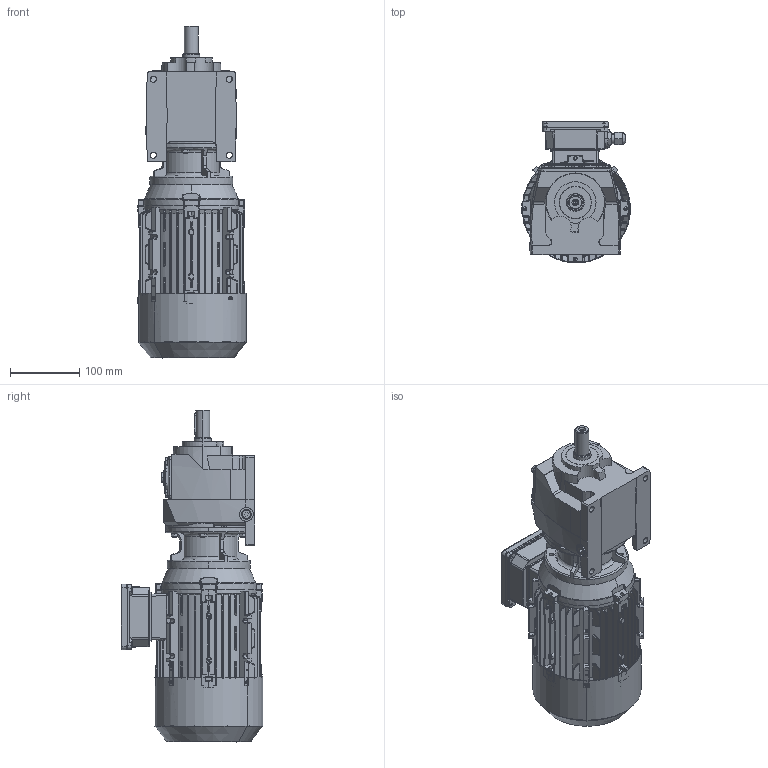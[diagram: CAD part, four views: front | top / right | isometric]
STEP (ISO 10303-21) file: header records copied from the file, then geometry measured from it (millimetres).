
FILE_DESCRIPTION (( 'STEP AP203' ), '1' );
FILE_NAME ('MV_003_0_MX-80.STEP', '2018-11-22T13:05:18', ( '' ), ( '' ), 'SwSTEP 2.0', 'SolidWorks 2012', '' );
FILE_SCHEMA (( 'CONFIG_CONTROL_DESIGN' ));
Products named in the file (15): MV_003_0_MX-80; MX3-80_B14; IE 3 80 Plug; IE3 80 Shaft; IE3 80 Cable glands; Flansch-80_IMB14; IE3 80 Fan cover; IE3 80 Gasket for T-box(base); IE3 80 Teriminal box base; IE3 80 terminal box cover; IE3 80 Casing; IE3 80 Shield; ML11A_Varsayìlan; 0380B14_Varsayìlan; M003_Varsayìlan
Assembly tree (14 placements, depth 3):
  MV_003_0_MX-80
    M003_Varsayìlan
    0380B14_Varsayìlan
    ML11A_Varsayìlan
    MX3-80_B14
      IE3 80 Casing
      IE3 80 Shield
      IE3 80 Fan cover
      IE3 80 Teriminal box base
      IE3 80 Gasket for T-box(base)
      IE3 80 terminal box cover
      IE3 80 Cable glands
      Flansch-80_IMB14
      IE 3 80 Plug
      IE3 80 Shaft
Bounding box: 156.89 x 204.59 x 480.5 mm (x, y, z)
Volume: 2688047.8 mm3; surface area: 731589.2 mm2
Topology: 13 solids, 13 shells, 4859 faces, 12398 edges, 7559 vertices
Faces by surface type: bspline 1385, cylinder 1355, plane 1337, cone 461, torus 217, sphere 104
Entity records: 205805 total; most frequent: CARTESIAN_POINT 99505, ORIENTED_EDGE 24486, DIRECTION 18282, EDGE_CURVE 12243, VERTEX_POINT 7543, AXIS2_PLACEMENT_3D 6860, EDGE_LOOP 5232, FACE_OUTER_BOUND 4859
